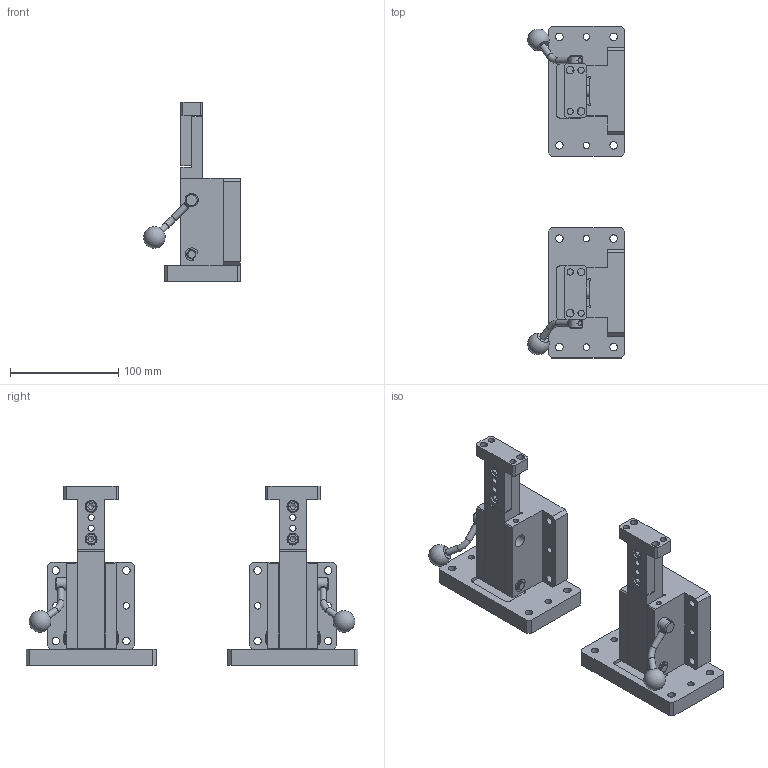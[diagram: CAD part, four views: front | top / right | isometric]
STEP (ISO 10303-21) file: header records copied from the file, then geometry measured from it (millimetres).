
FILE_DESCRIPTION(/* description */ (''),/* implementation_level */ '2;1');
FILE_NAME(/* name */ 'HCFZ-80-F4-L.R.stp',/* time_stamp */ '2018-08-28T11:35:06+08:00',/* author */ (''),/* organization */ (''),/* preprocessor_version */ 'ST-DEVELOPER v16',/* originating_system */ 'SIEMENS PLM Software NX 11.0',/* authorisation */ '');
FILE_SCHEMA (('AUTOMOTIVE_DESIGN { 1 0 10303 214 3 1 1 1 }'));
Length unit declared in the file: millimetre
Products named in the file (1): LSFZT80-L165-Y_stp
Bounding box: 89.28 x 306 x 165 mm (x, y, z)
Volume: 776918.3 mm3; surface area: 196544.1 mm2
Topology: 62 solids, 62 shells, 890 faces, 2206 edges, 1442 vertices
Faces by surface type: plane 382, cylinder 294, cone 140, torus 50, bspline 16, sphere 8
Full cylindrical faces by diameter (mm): 2.458 x2, 2.459 x2, 2.5 x2, 2.675 x2, 3 x2, 3.2 x2, 3.242 x8, 4 x4, 4.001 x4, 4.9 x10, 4.915 x10, 4.917 x10, 5 x6, 5.2 x6, 5.35 x2, 5.8 x12, 6 x52, 7 x30, 8 x14, 10 x14, 11 x10, 12 x12
Entity records: 29470 total; most frequent: CARTESIAN_POINT 5379, DIRECTION 3922, ORIENTED_EDGE 3212, EDGE_CURVE 1606, AXIS2_PLACEMENT_3D 1603, EDGE_LOOP 1478, VERTEX_POINT 1264, FACE_BOUND 1114
